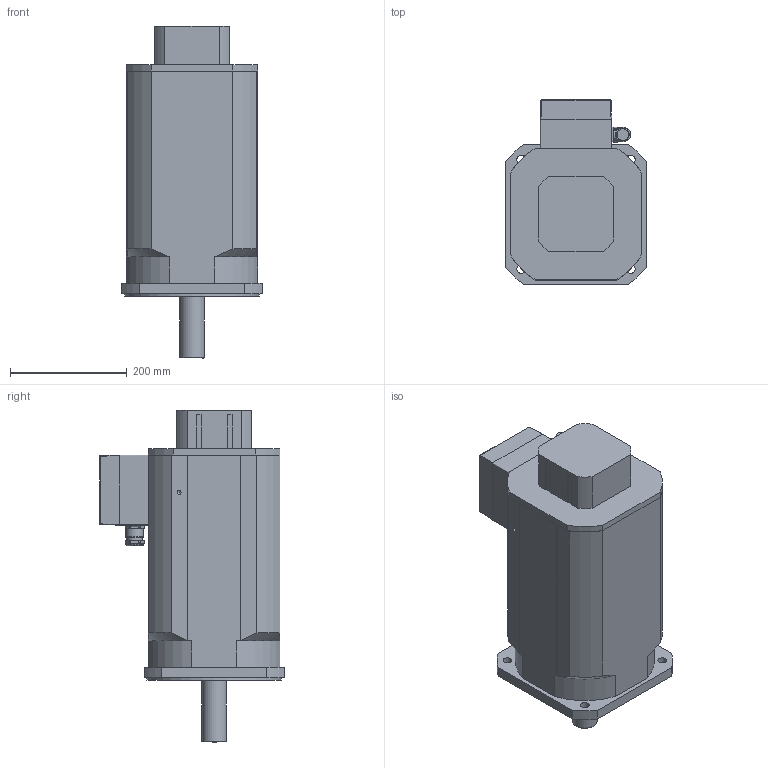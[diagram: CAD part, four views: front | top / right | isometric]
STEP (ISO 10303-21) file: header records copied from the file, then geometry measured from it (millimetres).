
FILE_DESCRIPTION(/* description */ ('Alibre Inc.'),/* implementation_level */ '2;1');
FILE_NAME(/* name */ 'export0',/* time_stamp */ '2011-11-01T08:57:47+01:00',/* author */ (''),/* organization */ (''),/* preprocessor_version */ 'ST-DEVELOPER v12',/* originating_system */ 'Alibre',/* authorisation */ '');
FILE_SCHEMA (('CONFIG_CONTROL_DESIGN'));
Length unit declared in the file: millimetre
Products named in the file (8): ID_1
Bounding box: 240 x 316 x 568 mm (x, y, z)
Volume: 20973737.4 mm3; surface area: 700954.7 mm2
Topology: 7 solids, 7 shells, 264 faces, 681 edges, 441 vertices
Faces by surface type: plane 123, cylinder 107, torus 15, cone 14, bspline 5
Full cylindrical faces by diameter (mm): 2.7 x4, 6.647 x3, 10.106 x1, 15 x5, 20 x6, 22 x2, 25 x2, 26.75 x1, 30 x2, 42 x1, 45 x1, 230 x1
Entity records: 9794 total; most frequent: CARTESIAN_POINT 2860, ORIENTED_EDGE 1246, DIRECTION 1204, EDGE_CURVE 623, AXIS2_PLACEMENT_3D 520, VERTEX_POINT 431, FACE_BOUND 340, EDGE_LOOP 338
